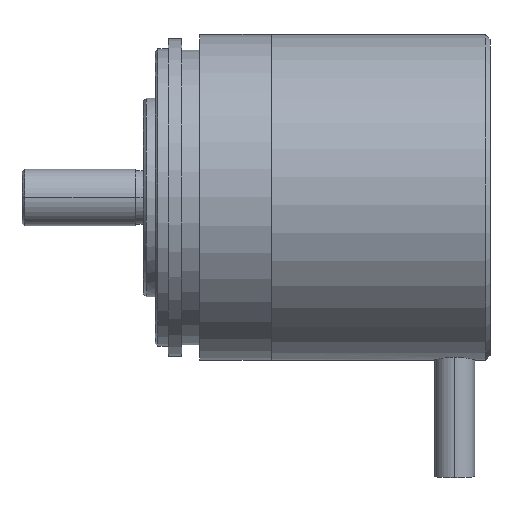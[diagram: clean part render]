
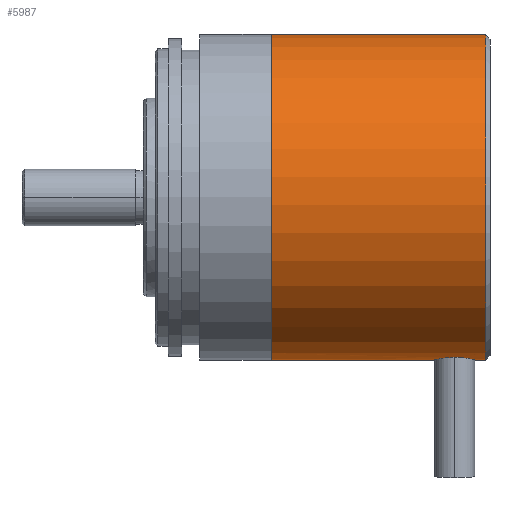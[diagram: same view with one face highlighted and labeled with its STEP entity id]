
A CAD part, front view. The second image highlights one B-rep face of the part: STEP entity #5987.
In plain terms, the highlighted cylindrical face has radius 18.25 mm (diameter 36.5 mm), a partial arc.
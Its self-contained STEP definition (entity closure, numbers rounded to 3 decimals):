
#10 = CARTESIAN_POINT ( 'NONE',  ( 28.678, 19.148, 20.766 ) ) ;
#13 = FACE_OUTER_BOUND ( 'NONE', #688, .T. ) ;
#30 = CARTESIAN_POINT ( 'NONE',  ( 47.378, 19.686, 2.522 ) ) ;
#49 = CARTESIAN_POINT ( 'NONE',  ( 47.999, 15.945, 2.798 ) ) ;
#125 = ORIENTED_EDGE ( 'NONE', *, *, #5726, .F. ) ;
#158 = AXIS2_PLACEMENT_3D ( 'NONE', #2360, #351, #2386 ) ;
#322 = AXIS2_PLACEMENT_3D ( 'NONE', #1060, #4424, #1550 ) ;
#347 = AXIS2_PLACEMENT_3D ( 'NONE', #10, #3409, #483 ) ;
#351 = DIRECTION ( 'NONE',  ( 1., 0., 0. ) ) ;
#367 = CYLINDRICAL_SURFACE ( 'NONE', #158, 18.25 ) ;
#434 = CARTESIAN_POINT ( 'NONE',  ( 51.004, 16.425, 2.719 ) ) ;
#483 = DIRECTION ( 'NONE',  ( 0., -0.048, 0.999 ) ) ;
#502 = CARTESIAN_POINT ( 'NONE',  ( 46.976, 19.04, 2.514 ) ) ;
#521 = CARTESIAN_POINT ( 'NONE',  ( 48.705, 15.67, 2.85 ) ) ;
#663 = CIRCLE ( 'NONE', #322, 18.25 ) ;
#688 = EDGE_LOOP ( 'NONE', ( #5586, #3101, #4146, #5590, #5573, #125, #2383 ) ) ;
#785 = VERTEX_POINT ( 'NONE', #2927 ) ;
#848 = LINE ( 'NONE', #3968, #3354 ) ;
#861 = CIRCLE ( 'NONE', #347, 18.25 ) ;
#940 = CARTESIAN_POINT ( 'NONE',  ( 51.416, 17.061, 2.634 ) ) ;
#1012 = CARTESIAN_POINT ( 'NONE',  ( 46.837, 18.552, 2.525 ) ) ;
#1036 = CARTESIAN_POINT ( 'NONE',  ( 49.208, 15.63, 2.858 ) ) ;
#1060 = CARTESIAN_POINT ( 'NONE',  ( 52.678, 19.148, 20.766 ) ) ;
#1083 = B_SPLINE_CURVE_WITH_KNOTS ( 'NONE', 3,
 ( #2932, #2460, #30, #3431, #502, #3927, #1012, #4387, #1510, #4832, #2001, #5279, #2505, #5725, #2971, #49, #3452, #521, #3948, #1036 ),
 .UNSPECIFIED., .F., .F.,
 ( 4, 2, 2, 2, 2, 2, 2, 2, 2, 4 ),
 ( 0.602, 0.652, 0.701, 0.726, 0.751, 0.801, 0.851, 0.9, 0.95, 1. ),
 .UNSPECIFIED. ) ;
#1147 = CARTESIAN_POINT ( 'NONE',  ( 49.463, 15.63, 2.858 ) ) ;
#1170 = B_SPLINE_CURVE_WITH_KNOTS ( 'NONE', 3,
 ( #5203, #1147, #5653, #2895, #6106, #3365, #434, #3864, #940, #4324, #1445, #4775, #1945, #5222, #2440, #5676, #2915, #6125 ),
 .UNSPECIFIED., .F., .F.,
 ( 4, 2, 2, 2, 2, 2, 2, 2, 4 ),
 ( 0., 0.05, 0.099, 0.149, 0.199, 0.249, 0.298, 0.348, 0.398 ),
 .UNSPECIFIED. ) ;
#1445 = CARTESIAN_POINT ( 'NONE',  ( 51.618, 17.794, 2.564 ) ) ;
#1510 = CARTESIAN_POINT ( 'NONE',  ( 46.793, 18.172, 2.541 ) ) ;
#1550 = DIRECTION ( 'NONE',  ( 0., -0.048, 0.999 ) ) ;
#1652 = VECTOR ( 'NONE', #3909, 1000. ) ;
#1945 = CARTESIAN_POINT ( 'NONE',  ( 51.588, 18.555, 2.524 ) ) ;
#2001 = CARTESIAN_POINT ( 'NONE',  ( 46.841, 17.538, 2.585 ) ) ;
#2360 = CARTESIAN_POINT ( 'NONE',  ( 53.178, 19.148, 20.766 ) ) ;
#2383 = ORIENTED_EDGE ( 'NONE', *, *, #5732, .F. ) ;
#2386 = DIRECTION ( 'NONE',  ( 0., -0.048, 0.999 ) ) ;
#2417 = CARTESIAN_POINT ( 'NONE',  ( 52.678, 20.024, 2.537 ) ) ;
#2440 = CARTESIAN_POINT ( 'NONE',  ( 51.327, 19.272, 2.515 ) ) ;
#2460 = CARTESIAN_POINT ( 'NONE',  ( 47.558, 19.873, 2.529 ) ) ;
#2505 = CARTESIAN_POINT ( 'NONE',  ( 47.117, 16.832, 2.662 ) ) ;
#2631 = VECTOR ( 'NONE', #4850, 1000. ) ;
#2891 = CARTESIAN_POINT ( 'NONE',  ( 28.678, 18.271, 38.995 ) ) ;
#2895 = CARTESIAN_POINT ( 'NONE',  ( 50.193, 15.829, 2.82 ) ) ;
#2915 = CARTESIAN_POINT ( 'NONE',  ( 50.858, 19.873, 2.529 ) ) ;
#2927 = CARTESIAN_POINT ( 'NONE',  ( 50.657, 20.024, 2.537 ) ) ;
#2932 = CARTESIAN_POINT ( 'NONE',  ( 47.759, 20.024, 2.537 ) ) ;
#2971 = CARTESIAN_POINT ( 'NONE',  ( 47.591, 16.244, 2.747 ) ) ;
#3101 = ORIENTED_EDGE ( 'NONE', *, *, #5701, .T. ) ;
#3354 = VECTOR ( 'NONE', #5295, 1000. ) ;
#3365 = CARTESIAN_POINT ( 'NONE',  ( 50.825, 16.245, 2.747 ) ) ;
#3378 = VERTEX_POINT ( 'NONE', #4727 ) ;
#3409 = DIRECTION ( 'NONE',  ( 1., 0., 0. ) ) ;
#3431 = CARTESIAN_POINT ( 'NONE',  ( 47.089, 19.272, 2.515 ) ) ;
#3450 = LINE ( 'NONE', #4404, #2631 ) ;
#3452 = CARTESIAN_POINT ( 'NONE',  ( 48.223, 15.829, 2.82 ) ) ;
#3541 = VERTEX_POINT ( 'NONE', #4768 ) ;
#3864 = CARTESIAN_POINT ( 'NONE',  ( 51.3, 16.833, 2.662 ) ) ;
#3884 = VERTEX_POINT ( 'NONE', #4016 ) ;
#3909 = DIRECTION ( 'NONE',  ( 1., 0., 0. ) ) ;
#3927 = CARTESIAN_POINT ( 'NONE',  ( 46.864, 18.676, 2.521 ) ) ;
#3948 = CARTESIAN_POINT ( 'NONE',  ( 48.955, 15.63, 2.858 ) ) ;
#3968 = CARTESIAN_POINT ( 'NONE',  ( 53.178, 18.271, 38.995 ) ) ;
#4016 = CARTESIAN_POINT ( 'NONE',  ( 49.208, 15.63, 2.858 ) ) ;
#4047 = LINE ( 'NONE', #4366, #1652 ) ;
#4146 = ORIENTED_EDGE ( 'NONE', *, *, #5714, .T. ) ;
#4324 = CARTESIAN_POINT ( 'NONE',  ( 51.575, 17.539, 2.585 ) ) ;
#4366 = CARTESIAN_POINT ( 'NONE',  ( 53.178, 20.024, 2.537 ) ) ;
#4371 = CARTESIAN_POINT ( 'NONE',  ( 47.759, 20.024, 2.537 ) ) ;
#4387 = CARTESIAN_POINT ( 'NONE',  ( 46.801, 18.3, 2.535 ) ) ;
#4404 = CARTESIAN_POINT ( 'NONE',  ( 53.178, 20.024, 2.537 ) ) ;
#4424 = DIRECTION ( 'NONE',  ( 1., 0., 0. ) ) ;
#4558 = VERTEX_POINT ( 'NONE', #4371 ) ;
#4727 = CARTESIAN_POINT ( 'NONE',  ( 28.678, 20.024, 2.537 ) ) ;
#4768 = CARTESIAN_POINT ( 'NONE',  ( 52.678, 18.271, 38.995 ) ) ;
#4775 = CARTESIAN_POINT ( 'NONE',  ( 51.625, 18.299, 2.534 ) ) ;
#4832 = CARTESIAN_POINT ( 'NONE',  ( 46.798, 17.793, 2.564 ) ) ;
#4850 = DIRECTION ( 'NONE',  ( 1., 0., 0. ) ) ;
#5203 = CARTESIAN_POINT ( 'NONE',  ( 49.208, 15.63, 2.858 ) ) ;
#5222 = CARTESIAN_POINT ( 'NONE',  ( 51.44, 19.04, 2.514 ) ) ;
#5279 = CARTESIAN_POINT ( 'NONE',  ( 47., 17.06, 2.634 ) ) ;
#5295 = DIRECTION ( 'NONE',  ( 1., 0., 0. ) ) ;
#5430 = VERTEX_POINT ( 'NONE', #2417 ) ;
#5435 = VERTEX_POINT ( 'NONE', #2891 ) ;
#5573 = ORIENTED_EDGE ( 'NONE', *, *, #5719, .T. ) ;
#5586 = ORIENTED_EDGE ( 'NONE', *, *, #5684, .T. ) ;
#5590 = ORIENTED_EDGE ( 'NONE', *, *, #5665, .T. ) ;
#5653 = CARTESIAN_POINT ( 'NONE',  ( 49.711, 15.67, 2.85 ) ) ;
#5665 = EDGE_CURVE ( 'NONE', #3884, #785, #1170, .T. ) ;
#5676 = CARTESIAN_POINT ( 'NONE',  ( 51.038, 19.686, 2.522 ) ) ;
#5684 = EDGE_CURVE ( 'NONE', #5435, #3378, #861, .T. ) ;
#5701 = EDGE_CURVE ( 'NONE', #3378, #4558, #4047, .T. ) ;
#5714 = EDGE_CURVE ( 'NONE', #4558, #3884, #1083, .T. ) ;
#5719 = EDGE_CURVE ( 'NONE', #785, #5430, #3450, .T. ) ;
#5725 = CARTESIAN_POINT ( 'NONE',  ( 47.413, 16.424, 2.719 ) ) ;
#5726 = EDGE_CURVE ( 'NONE', #3541, #5430, #663, .T. ) ;
#5732 = EDGE_CURVE ( 'NONE', #5435, #3541, #848, .T. ) ;
#5987 = ADVANCED_FACE ( 'NONE', ( #13 ), #367, .T. ) ;
#6106 = CARTESIAN_POINT ( 'NONE',  ( 50.418, 15.946, 2.798 ) ) ;
#6125 = CARTESIAN_POINT ( 'NONE',  ( 50.657, 20.024, 2.537 ) ) ;
